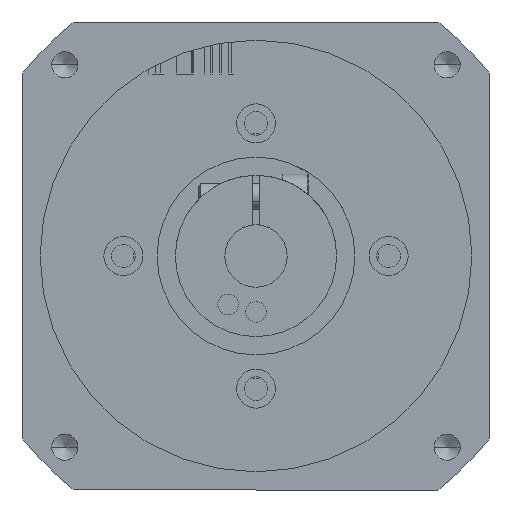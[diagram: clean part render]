
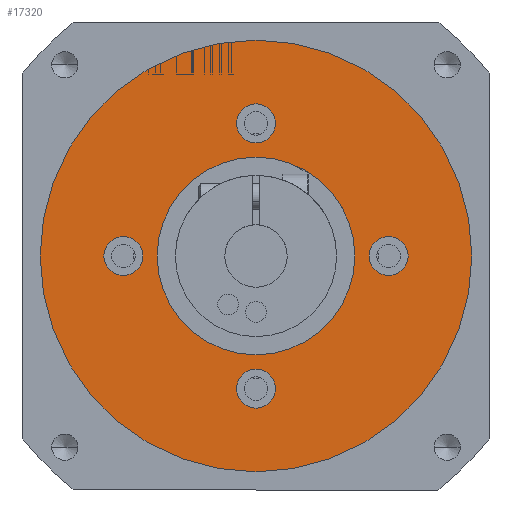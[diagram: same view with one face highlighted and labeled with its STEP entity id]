
A CAD part, front view. The second image highlights one B-rep face of the part: STEP entity #17320.
In plain terms, the highlighted planar face has unit normal (0, -1, 0) as drawn and (0, 0, -1) by its records, which use the part's own axes.
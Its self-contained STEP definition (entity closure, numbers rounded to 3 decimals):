
#495 = DIRECTION ( 'NONE',  ( 0., 0., 1. ) ) ;
#536 = CARTESIAN_POINT ( 'NONE',  ( 25.5, 0., -21.5 ) ) ;
#610 = CARTESIAN_POINT ( 'NONE',  ( 0., -19., -21.5 ) ) ;
#905 = DIRECTION ( 'NONE',  ( 0., 0., 1. ) ) ;
#1624 = ORIENTED_EDGE ( 'NONE', *, *, #29817, .T. ) ;
#1865 = DIRECTION ( 'NONE',  ( 0., 0., 1. ) ) ;
#2008 = AXIS2_PLACEMENT_3D ( 'NONE', #7934, #26232, #10574 ) ;
#2343 = VERTEX_POINT ( 'NONE', #9141 ) ;
#2596 = ORIENTED_EDGE ( 'NONE', *, *, #17645, .T. ) ;
#3107 = CIRCLE ( 'NONE', #10858, 3.75 ) ;
#3162 = DIRECTION ( 'NONE',  ( 0., 1., 0. ) ) ;
#3206 = DIRECTION ( 'NONE',  ( 0., 0., -1. ) ) ;
#3210 = ORIENTED_EDGE ( 'NONE', *, *, #31675, .T. ) ;
#3236 = DIRECTION ( 'NONE',  ( 0., 1., 0. ) ) ;
#3396 = CIRCLE ( 'NONE', #26961, 3.75 ) ;
#3515 = CARTESIAN_POINT ( 'NONE',  ( 0., -41.5, -21.5 ) ) ;
#3631 = CARTESIAN_POINT ( 'NONE',  ( -25.5, 3.75, -21.5 ) ) ;
#4126 = FACE_BOUND ( 'NONE', #21167, .T. ) ;
#4497 = CIRCLE ( 'NONE', #30907, 3.75 ) ;
#4751 = CARTESIAN_POINT ( 'NONE',  ( 0., 25.5, -21.5 ) ) ;
#4921 = FACE_BOUND ( 'NONE', #19878, .T. ) ;
#5227 = AXIS2_PLACEMENT_3D ( 'NONE', #27871, #12193, #30488 ) ;
#5413 = ORIENTED_EDGE ( 'NONE', *, *, #9365, .T. ) ;
#6142 = EDGE_CURVE ( 'NONE', #29225, #9842, #3107, .T. ) ;
#7394 = DIRECTION ( 'NONE',  ( 0., 1., 0. ) ) ;
#7614 = CARTESIAN_POINT ( 'NONE',  ( 0., 0., -21.5 ) ) ;
#7934 = CARTESIAN_POINT ( 'NONE',  ( 0., 0., -21.5 ) ) ;
#8185 = VERTEX_POINT ( 'NONE', #26995 ) ;
#8337 = CARTESIAN_POINT ( 'NONE',  ( 0., -21.75, -21.5 ) ) ;
#8428 = AXIS2_PLACEMENT_3D ( 'NONE', #16161, #495, #18814 ) ;
#8731 = EDGE_LOOP ( 'NONE', ( #17386, #26990 ) ) ;
#9141 = CARTESIAN_POINT ( 'NONE',  ( 0., -29.25, -21.5 ) ) ;
#9365 = EDGE_CURVE ( 'NONE', #18640, #28007, #10976, .T. ) ;
#9842 = VERTEX_POINT ( 'NONE', #25426 ) ;
#9905 = DIRECTION ( 'NONE',  ( 0., 0., 1. ) ) ;
#10034 = VERTEX_POINT ( 'NONE', #8337 ) ;
#10252 = DIRECTION ( 'NONE',  ( 0., -1., 0. ) ) ;
#10511 = EDGE_LOOP ( 'NONE', ( #1624, #3210 ) ) ;
#10574 = DIRECTION ( 'NONE',  ( 0., -1., 0. ) ) ;
#10662 = CIRCLE ( 'NONE', #2008, 41.5 ) ;
#10858 = AXIS2_PLACEMENT_3D ( 'NONE', #25588, #9905, #28209 ) ;
#10976 = CIRCLE ( 'NONE', #15259, 3.75 ) ;
#11083 = FACE_BOUND ( 'NONE', #10511, .T. ) ;
#11866 = EDGE_CURVE ( 'NONE', #8185, #14306, #21092, .T. ) ;
#12193 = DIRECTION ( 'NONE',  ( 0., 0., 1. ) ) ;
#12418 = ORIENTED_EDGE ( 'NONE', *, *, #13968, .T. ) ;
#12794 = EDGE_CURVE ( 'NONE', #28007, #18640, #3396, .T. ) ;
#12907 = EDGE_CURVE ( 'NONE', #10034, #2343, #15668, .T. ) ;
#13174 = EDGE_CURVE ( 'NONE', #2343, #10034, #15255, .T. ) ;
#13331 = AXIS2_PLACEMENT_3D ( 'NONE', #16582, #905, #19242 ) ;
#13640 = CARTESIAN_POINT ( 'NONE',  ( -25.5, 0., -21.5 ) ) ;
#13844 = AXIS2_PLACEMENT_3D ( 'NONE', #610, #18949, #3236 ) ;
#13968 = EDGE_CURVE ( 'NONE', #27368, #20343, #27551, .T. ) ;
#14306 = VERTEX_POINT ( 'NONE', #17419 ) ;
#15038 = DIRECTION ( 'NONE',  ( 0., 0., 1. ) ) ;
#15255 = CIRCLE ( 'NONE', #13331, 3.75 ) ;
#15259 = AXIS2_PLACEMENT_3D ( 'NONE', #17555, #1865, #20206 ) ;
#15668 = CIRCLE ( 'NONE', #5227, 3.75 ) ;
#16161 = CARTESIAN_POINT ( 'NONE',  ( 0., 0., -21.5 ) ) ;
#16273 = DIRECTION ( 'NONE',  ( 0., 1., 0. ) ) ;
#16287 = PLANE ( 'NONE',  #13844 ) ;
#16582 = CARTESIAN_POINT ( 'NONE',  ( 0., -25.5, -21.5 ) ) ;
#17320 = ADVANCED_FACE ( 'NONE', ( #25824, #11083, #25026, #4921, #4126, #18027 ), #16287, .T. ) ;
#17386 = ORIENTED_EDGE ( 'NONE', *, *, #11866, .T. ) ;
#17419 = CARTESIAN_POINT ( 'NONE',  ( 0., 21.75, -21.5 ) ) ;
#17533 = CARTESIAN_POINT ( 'NONE',  ( 0., 41.5, -21.5 ) ) ;
#17554 = VERTEX_POINT ( 'NONE', #27993 ) ;
#17555 = CARTESIAN_POINT ( 'NONE',  ( -25.5, 0., -21.5 ) ) ;
#17645 = EDGE_CURVE ( 'NONE', #20343, #27368, #10662, .T. ) ;
#18026 = ORIENTED_EDGE ( 'NONE', *, *, #13174, .T. ) ;
#18027 = FACE_BOUND ( 'NONE', #25146, .T. ) ;
#18640 = VERTEX_POINT ( 'NONE', #3631 ) ;
#18814 = DIRECTION ( 'NONE',  ( 0., -1., 0. ) ) ;
#18871 = DIRECTION ( 'NONE',  ( 0., 0., 1. ) ) ;
#18925 = CARTESIAN_POINT ( 'NONE',  ( 0., 0., -21.5 ) ) ;
#18949 = DIRECTION ( 'NONE',  ( 0., 0., -1. ) ) ;
#19242 = DIRECTION ( 'NONE',  ( 0., 1., 0. ) ) ;
#19878 = EDGE_LOOP ( 'NONE', ( #21470, #30461 ) ) ;
#20206 = DIRECTION ( 'NONE',  ( 0., 1., 0. ) ) ;
#20250 = EDGE_CURVE ( 'NONE', #9842, #29225, #26951, .T. ) ;
#20343 = VERTEX_POINT ( 'NONE', #3515 ) ;
#20808 = EDGE_LOOP ( 'NONE', ( #2596, #12418 ) ) ;
#21092 = CIRCLE ( 'NONE', #32433, 3.75 ) ;
#21167 = EDGE_LOOP ( 'NONE', ( #30674, #18026 ) ) ;
#21404 = AXIS2_PLACEMENT_3D ( 'NONE', #536, #18871, #3162 ) ;
#21470 = ORIENTED_EDGE ( 'NONE', *, *, #6142, .T. ) ;
#21559 = DIRECTION ( 'NONE',  ( 0., -1., 0. ) ) ;
#21866 = CIRCLE ( 'NONE', #27999, 19. ) ;
#23095 = DIRECTION ( 'NONE',  ( 0., 0., 1. ) ) ;
#25026 = FACE_BOUND ( 'NONE', #8731, .T. ) ;
#25146 = EDGE_LOOP ( 'NONE', ( #5413, #29964 ) ) ;
#25426 = CARTESIAN_POINT ( 'NONE',  ( 25.5, -3.75, -21.5 ) ) ;
#25588 = CARTESIAN_POINT ( 'NONE',  ( 25.5, 0., -21.5 ) ) ;
#25824 = FACE_OUTER_BOUND ( 'NONE', #20808, .T. ) ;
#25904 = EDGE_CURVE ( 'NONE', #14306, #8185, #4497, .T. ) ;
#25930 = DIRECTION ( 'NONE',  ( 0., 0., 1. ) ) ;
#26232 = DIRECTION ( 'NONE',  ( 0., 0., -1. ) ) ;
#26893 = VERTEX_POINT ( 'NONE', #33838 ) ;
#26951 = CIRCLE ( 'NONE', #21404, 3.75 ) ;
#26961 = AXIS2_PLACEMENT_3D ( 'NONE', #13640, #31965, #16273 ) ;
#26990 = ORIENTED_EDGE ( 'NONE', *, *, #25904, .T. ) ;
#26995 = CARTESIAN_POINT ( 'NONE',  ( 0., 29.25, -21.5 ) ) ;
#27368 = VERTEX_POINT ( 'NONE', #17533 ) ;
#27551 = CIRCLE ( 'NONE', #32002, 41.5 ) ;
#27871 = CARTESIAN_POINT ( 'NONE',  ( 0., -25.5, -21.5 ) ) ;
#27993 = CARTESIAN_POINT ( 'NONE',  ( 0., -19., -21.5 ) ) ;
#27999 = AXIS2_PLACEMENT_3D ( 'NONE', #7614, #25930, #10252 ) ;
#28007 = VERTEX_POINT ( 'NONE', #33494 ) ;
#28209 = DIRECTION ( 'NONE',  ( 0., 1., 0. ) ) ;
#29162 = CARTESIAN_POINT ( 'NONE',  ( 25.5, 3.75, -21.5 ) ) ;
#29225 = VERTEX_POINT ( 'NONE', #29162 ) ;
#29817 = EDGE_CURVE ( 'NONE', #17554, #26893, #33010, .T. ) ;
#29964 = ORIENTED_EDGE ( 'NONE', *, *, #12794, .T. ) ;
#30461 = ORIENTED_EDGE ( 'NONE', *, *, #20250, .T. ) ;
#30488 = DIRECTION ( 'NONE',  ( 0., 1., 0. ) ) ;
#30674 = ORIENTED_EDGE ( 'NONE', *, *, #12907, .T. ) ;
#30725 = CARTESIAN_POINT ( 'NONE',  ( 0., 25.5, -21.5 ) ) ;
#30907 = AXIS2_PLACEMENT_3D ( 'NONE', #4751, #23095, #7394 ) ;
#31675 = EDGE_CURVE ( 'NONE', #26893, #17554, #21866, .T. ) ;
#31965 = DIRECTION ( 'NONE',  ( 0., 0., 1. ) ) ;
#32002 = AXIS2_PLACEMENT_3D ( 'NONE', #18925, #3206, #21559 ) ;
#32433 = AXIS2_PLACEMENT_3D ( 'NONE', #30725, #15038, #33359 ) ;
#33010 = CIRCLE ( 'NONE', #8428, 19. ) ;
#33359 = DIRECTION ( 'NONE',  ( 0., 1., 0. ) ) ;
#33494 = CARTESIAN_POINT ( 'NONE',  ( -25.5, -3.75, -21.5 ) ) ;
#33838 = CARTESIAN_POINT ( 'NONE',  ( 0., 19., -21.5 ) ) ;
